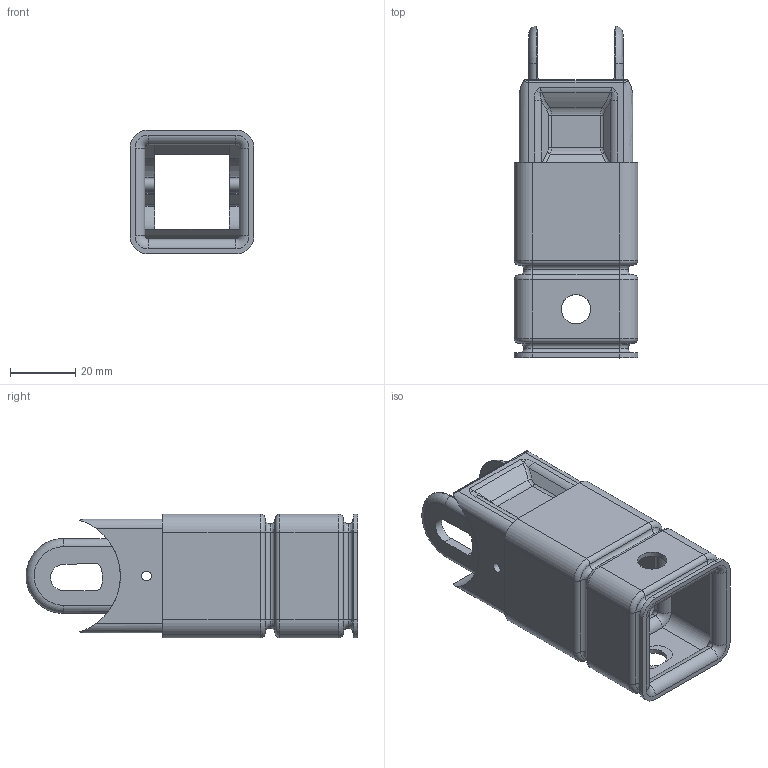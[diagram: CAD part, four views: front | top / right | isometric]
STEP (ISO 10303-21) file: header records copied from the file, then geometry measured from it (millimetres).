
FILE_DESCRIPTION((''),'2;1');
FILE_NAME('E:\Uebbing\KATALOG\3D\PFR\PFR 121\PFR 121 Anschluss N.stp','2010-08-16T12:35:54',('UebbingXP'),(''),'Autodesk Inventor 10','Autodesk Inventor 10','');
FILE_SCHEMA(('AUTOMOTIVE_DESIGN { 1 0 10303 214 1 1 1 1 }'));
Length unit declared in the file: millimetre
Products named in the file (3): Baugruppe1; PFR121 Normalanschluss; PFR121-75 
Assembly tree (2 placements, depth 2):
  Baugruppe1
    PFR121 Normalanschluss
    PFR121-75 
Bounding box: 38 x 102 x 38 mm (x, y, z)
Volume: 31318.1 mm3; surface area: 30566.5 mm2
Topology: 2 solids, 2 shells, 361 faces, 856 edges, 494 vertices
Faces by surface type: cylinder 121, bspline 120, plane 87, torus 33
Full cylindrical faces by diameter (mm): 3 x1, 9 x2
Entity records: 14293 total; most frequent: CARTESIAN_POINT 6242, ORIENTED_EDGE 1680, DIRECTION 1660, EDGE_CURVE 840, AXIS2_PLACEMENT_3D 636, VERTEX_POINT 490, VECTOR 388, LINE 388
